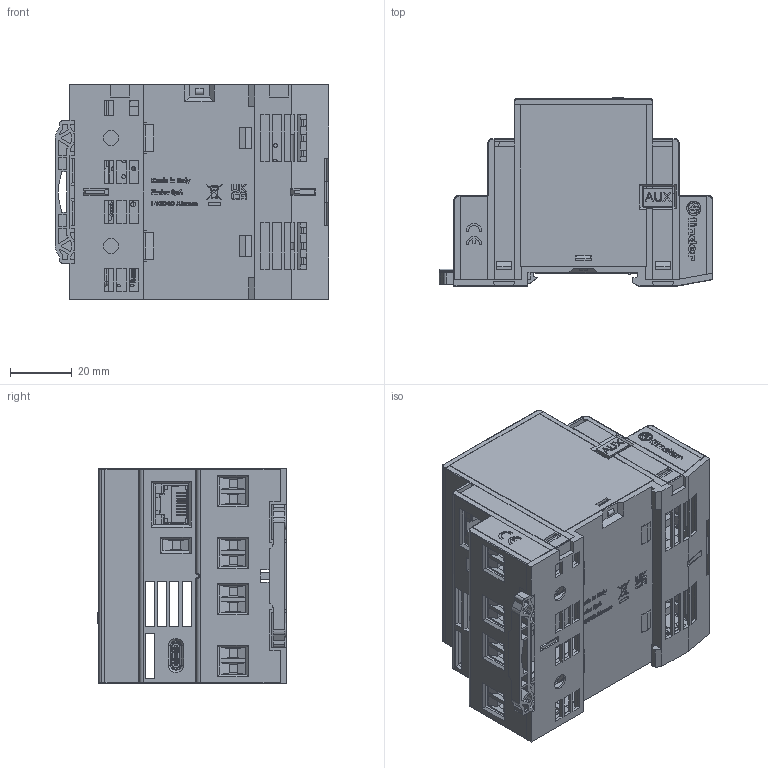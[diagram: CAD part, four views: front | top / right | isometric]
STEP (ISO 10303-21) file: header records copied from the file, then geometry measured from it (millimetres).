
FILE_DESCRIPTION(/* description */ ('Unknown'),/* implementation_level */ '2;1');
FILE_NAME(/* name */ '8A.04_8300',/* time_stamp */ '2022-07-11T14:23:09+02:00',/* author */ ('Unknown'),/* organization */ ('Unknown'),/* preprocessor_version */ 'ST-DEVELOPER v16.7',/* originating_system */ 'DEX',/* authorisation */ $);
FILE_SCHEMA (('AUTOMOTIVE_DESIGN {1 0 10303 214 3 1 1}'));
Products named in the file (1): 8A.04_8300
Bounding box: 88.85 x 61.15 x 70 mm (x, y, z)
Surface area: 56920.2 mm2 (no closed solid volume)
Topology: 0 solids, 197 shells, 3910 faces, 12963 edges, 9304 vertices
Faces by surface type: plane 3297, cylinder 427, bspline 111, torus 39, cone 36
Full cylindrical faces by diameter (mm): 0.374 x2, 0.407 x1, 2.2 x1, 2.6 x26, 2.85 x26, 3 x4, 3.8 x26, 4 x1, 4.5 x1, 5 x2
Entity records: 148726 total; most frequent: CARTESIAN_POINT 31071, ORIENTED_EDGE 21512, DIRECTION 21481, EDGE_CURVE 12747, LINE 10987, VECTOR 10987, VERTEX_POINT 9219, AXIS2_PLACEMENT_3D 5247
